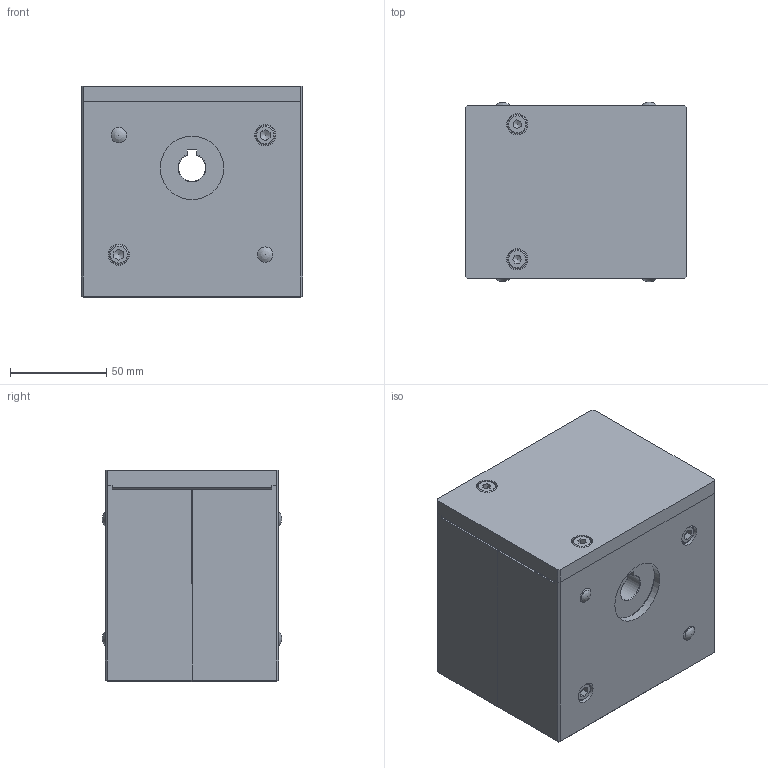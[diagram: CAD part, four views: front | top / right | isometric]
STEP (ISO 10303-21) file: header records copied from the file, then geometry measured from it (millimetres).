
FILE_DESCRIPTION((''),'2;1');
FILE_NAME('C:\Documents and Settings\Administrator\My Documents\Andys Backup Data\ANDY''S INVENTOR\INVENTOR LIBRARIES\MINITEC INVENTOR LIBRARIES\READY FOR USE MODULES LR\A PACKED FILES\STEP FILES\28.0082_3 TIMING BELT PULLEY T90 14mm.stp','2010-07-01T08:08:28',('Administrator'),(''),'Autodesk Inventor 2009','Autodesk Inventor 2009','');
FILE_SCHEMA(('CONFIG_CONTROL_DESIGN'));
Length unit declared in the file: millimetre
Products named in the file (9): 28.0082_3 TIMING BELT PULLEY T90 14mm; 28.0082_3 T90 PULLEY 14mm; 28.0082 T90 BEARING 35X62X14; 28.0082 T90 RIGHT SIDE 33mm HOLE; 28.0082 T90 LEFT SIDE 33mm HOLE; 28.0082 T90 TOP; 21.1238  M6 x 16; M6X55 CAP SCREW HIGH HEAD; HOLE CAP 6mm THREADED
Assembly tree (16 placements, depth 2):
  28.0082_3 TIMING BELT PULLEY T90 14mm
    28.0082_3 T90 PULLEY 14mm
    28.0082 T90 BEARING 35X62X14  x2
    28.0082 T90 RIGHT SIDE 33mm HOLE
    28.0082 T90 LEFT SIDE 33mm HOLE
    28.0082 T90 TOP
    21.1238  M6 x 16  x2
    M6X55 CAP SCREW HIGH HEAD  x4
    HOLE CAP 6mm THREADED  x4
Bounding box: 115 x 93 x 110 mm (x, y, z)
Volume: 906672.7 mm3; surface area: 191789 mm2
Topology: 16 solids, 18 shells, 445 faces, 1154 edges, 731 vertices
Faces by surface type: plane 182, bspline 125, cylinder 85, sphere 22, cone 17, torus 14
Full cylindrical faces by diameter (mm): 4 x4, 5.75 x4, 6 x9, 6.6 x2, 10 x6, 33 x1, 35 x3, 42 x1, 43.802 x4, 53.198 x2, 56 x1, 62 x3, 66.04 x1
Entity records: 10392 total; most frequent: CARTESIAN_POINT 2631, ORIENTED_EDGE 1516, DIRECTION 1513, EDGE_CURVE 758, AXIS2_PLACEMENT_3D 522, VERTEX_POINT 515, VECTOR 469, LINE 469
